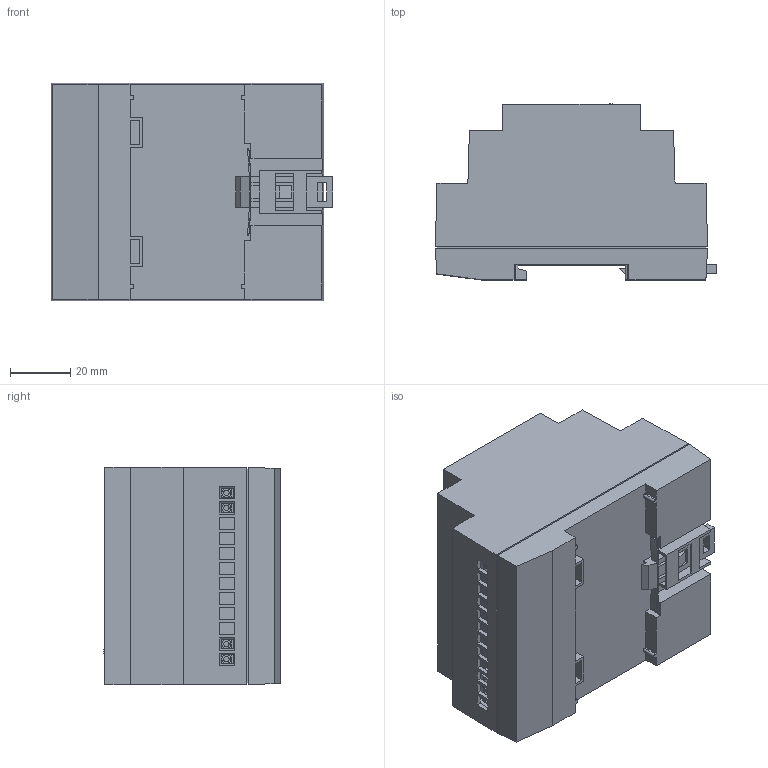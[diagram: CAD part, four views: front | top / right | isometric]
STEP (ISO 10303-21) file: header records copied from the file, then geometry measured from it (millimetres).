
FILE_DESCRIPTION (( 'STEP AP214' ), '1' );
FILE_NAME ('3D 沓麧錪 購旂1.STEP', '2017-08-01T13:38:36', ( '' ), ( '' ), 'SwSTEP 2.0', 'SolidWorks 2014', '' );
FILE_SCHEMA (( 'AUTOMOTIVE_DESIGN' ));
Length unit declared in the file: millimetre
Products named in the file (6): ﾈ淸韭瑣ⅱ; 椯鴀殣罻; 3D 沓麧錪 購旂1; Êîðïóñ Ä4_ÁÊÑÒ1; Êëåììà íèçêàÿ_11õ8õ5ìì; Çàùåëêà(Ä)
Assembly tree (17 placements, depth 2):
  3D 沓麧錪 購旂1
    Êëåììà íèçêàÿ_11õ8õ5ìì  x13
    Çàùåëêà(Ä)
    Êîðïóñ Ä4_ÁÊÑÒ1
    椯鴀殣罻
    ﾈ淸韭瑣ⅱ
Bounding box: 93 x 58.3 x 72 mm (x, y, z)
Volume: 224734.2 mm3; surface area: 57372.1 mm2
Topology: 17 solids, 17 shells, 1694 faces, 4448 edges, 2947 vertices
Faces by surface type: plane 1409, cylinder 167, bspline 116, sphere 2
Entity records: 63784 total; most frequent: CARTESIAN_POINT 24201, ORIENTED_EDGE 6400, DIRECTION 5306, EDGE_CURVE 3200, VECTOR 2818, LINE 2818, VERTEX_POINT 2131, EDGE_LOOP 1405
